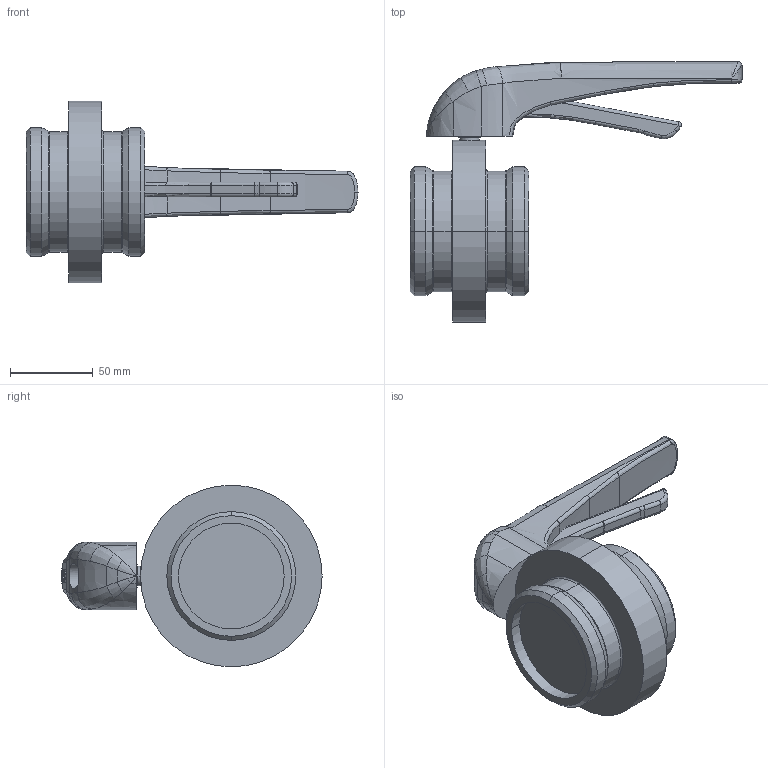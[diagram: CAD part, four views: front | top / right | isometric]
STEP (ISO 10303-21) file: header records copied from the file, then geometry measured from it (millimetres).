
FILE_DESCRIPTION(('Creo Elements/Direct Modeling STEP Export'),'2;1');
FILE_NAME('SV1-50-H-12G.stp','2015-08-10T11:08:13',(''),(''),'Creo Elements/Direct Modeling STEP processor for AP214 (Solid Model)','Creo Elements/Direct Modeling 17.0D 15-Jul-2011 (C) Parametric Technology GmbH','');
FILE_SCHEMA(('AUTOMOTIVE_DESIGN { 1 0 10303 214 1 1 1 1 }'));
Length unit declared in the file: millimetre
Products named in the file (3): SV1-50-12G; Handhebel_SV; SV1-50-H-12G
Assembly tree (2 placements, depth 2):
  SV1-50-H-12G
    Handhebel_SV
    SV1-50-12G
Bounding box: 201 x 157.6 x 110 mm (x, y, z)
Volume: 513787.4 mm3; surface area: 64155.9 mm2
Topology: 2 solids, 2 shells, 228 faces, 564 edges, 351 vertices
Faces by surface type: plane 99, cylinder 35, bspline 34, extrusion 32, torus 18, cone 8, sphere 2
Entity records: 23177 total; most frequent: CARTESIAN_POINT 17857, ORIENTED_EDGE 1120, DIRECTION 765, EDGE_CURVE 560, VERTEX_POINT 351, VECTOR 271, AXIS2_PLACEMENT_3D 247, EDGE_LOOP 243
